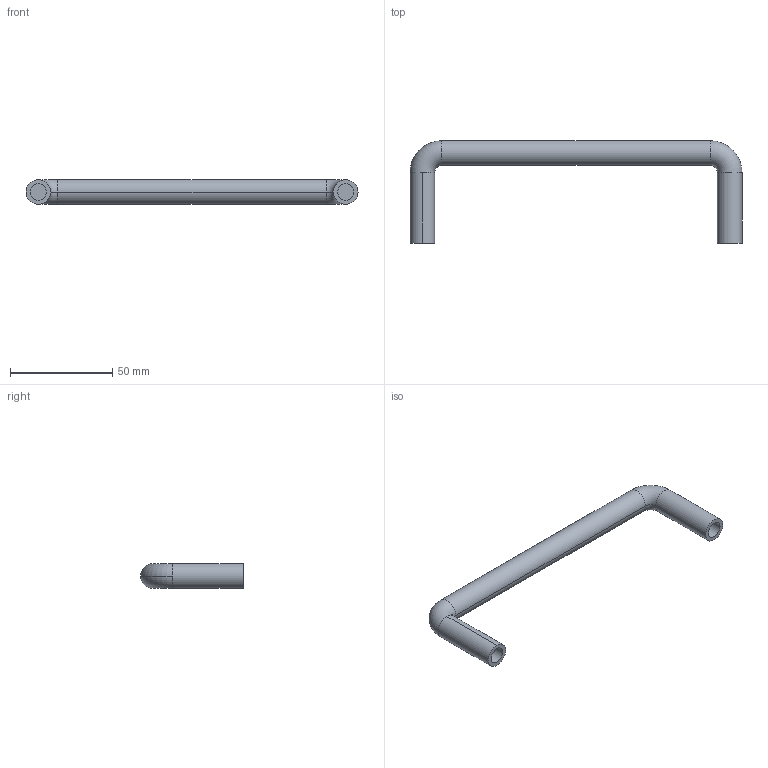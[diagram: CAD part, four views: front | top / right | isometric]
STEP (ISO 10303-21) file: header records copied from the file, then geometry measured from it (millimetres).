
FILE_DESCRIPTION (( 'STEP AP214' ), '1' );
FILE_NAME ('A84 KA-1251-11.STEP', '2012-02-22T02:00:13', ( '' ), ( '' ), 'SwSTEP 2.0', 'SolidWorks 2012', '' );
FILE_SCHEMA (( 'AUTOMOTIVE_DESIGN' ));
Length unit declared in the file: millimetre
Products named in the file (1): A84 KA-1251-11
Bounding box: 162 x 50 x 12 mm (x, y, z)
Volume: 24989.6 mm3; surface area: 9393.8 mm2
Topology: 1 solids, 1 shells, 18 faces, 36 edges, 22 vertices
Faces by surface type: cylinder 10, torus 4, plane 4
Entity records: 512 total; most frequent: DIRECTION 100, CARTESIAN_POINT 77, ORIENTED_EDGE 72, AXIS2_PLACEMENT_3D 45, EDGE_CURVE 36, CIRCLE 26, VERTEX_POINT 22, EDGE_LOOP 20
